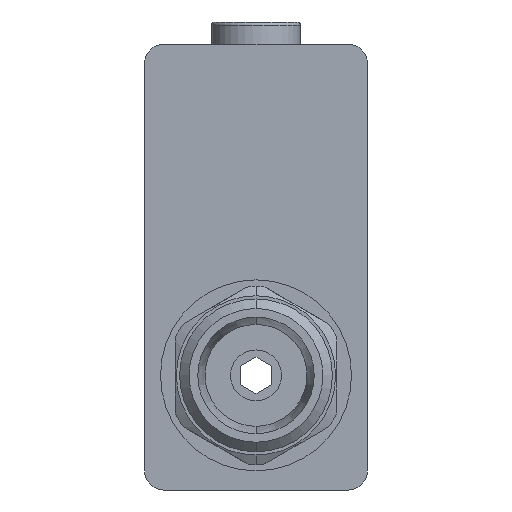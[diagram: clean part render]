
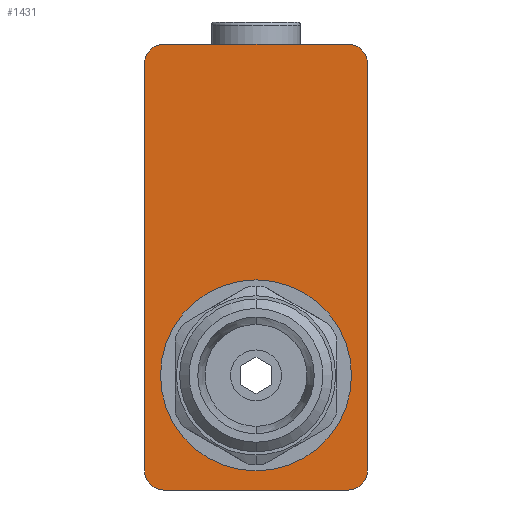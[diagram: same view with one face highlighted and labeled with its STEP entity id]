
A CAD part, left-side view. The second image highlights one B-rep face of the part: STEP entity #1431.
In plain terms, the highlighted planar face has unit normal (-1, 0, 0).
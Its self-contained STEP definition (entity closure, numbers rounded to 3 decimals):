
#75 = CARTESIAN_POINT ( 'NONE',  ( -46., -14.5, 32. ) ) ;
#172 = DIRECTION ( 'NONE',  ( 0., 1., 0. ) ) ;
#185 = DIRECTION ( 'NONE',  ( 0., 0., -1. ) ) ;
#300 = CARTESIAN_POINT ( 'NONE',  ( -46., -14.5, 35. ) ) ;
#548 = EDGE_CURVE ( 'NONE', #870, #1712, #1042, .T. ) ;
#607 = DIRECTION ( 'NONE',  ( 0., 0., -1. ) ) ;
#700 = CARTESIAN_POINT ( 'NONE',  ( -46., -17.5, 35. ) ) ;
#720 = AXIS2_PLACEMENT_3D ( 'NONE', #75, #1478, #2540 ) ;
#863 = DIRECTION ( 'NONE',  ( 0., 0., -1. ) ) ;
#870 = VERTEX_POINT ( 'NONE', #5318 ) ;
#907 = CARTESIAN_POINT ( 'NONE',  ( -46., -17.5, -32. ) ) ;
#1042 = CIRCLE ( 'NONE', #2550, 15. ) ;
#1055 = AXIS2_PLACEMENT_3D ( 'NONE', #1871, #3772, #1397 ) ;
#1154 = CIRCLE ( 'NONE', #5442, 3. ) ;
#1281 = CARTESIAN_POINT ( 'NONE',  ( -46., 17.5, 35. ) ) ;
#1336 = ORIENTED_EDGE ( 'NONE', *, *, #2870, .T. ) ;
#1382 = EDGE_CURVE ( 'NONE', #5129, #4523, #4793, .T. ) ;
#1397 = DIRECTION ( 'NONE',  ( 0., 0., -1. ) ) ;
#1431 = ADVANCED_FACE ( 'NONE', ( #5641, #3266 ), #6128, .F. ) ;
#1478 = DIRECTION ( 'NONE',  ( -1., 0., 0. ) ) ;
#1547 = DIRECTION ( 'NONE',  ( 1., 0., 0. ) ) ;
#1549 = EDGE_CURVE ( 'NONE', #5119, #3841, #3861, .T. ) ;
#1712 = VERTEX_POINT ( 'NONE', #5571 ) ;
#1723 = CIRCLE ( 'NONE', #5201, 15. ) ;
#1861 = VERTEX_POINT ( 'NONE', #2047 ) ;
#1871 = CARTESIAN_POINT ( 'NONE',  ( -46., 17.5, 35. ) ) ;
#1942 = EDGE_CURVE ( 'NONE', #1712, #870, #1723, .T. ) ;
#1949 = ORIENTED_EDGE ( 'NONE', *, *, #2501, .T. ) ;
#2047 = CARTESIAN_POINT ( 'NONE',  ( -46., 14.5, -35. ) ) ;
#2094 = ORIENTED_EDGE ( 'NONE', *, *, #3476, .F. ) ;
#2180 = ORIENTED_EDGE ( 'NONE', *, *, #2288, .T. ) ;
#2288 = EDGE_CURVE ( 'NONE', #4338, #4523, #3509, .T. ) ;
#2394 = ORIENTED_EDGE ( 'NONE', *, *, #1382, .F. ) ;
#2501 = EDGE_CURVE ( 'NONE', #4287, #1861, #3483, .T. ) ;
#2540 = DIRECTION ( 'NONE',  ( 0., 0., -1. ) ) ;
#2550 = AXIS2_PLACEMENT_3D ( 'NONE', #5354, #2992, #4881 ) ;
#2571 = CARTESIAN_POINT ( 'NONE',  ( -46., -14.5, -35. ) ) ;
#2573 = AXIS2_PLACEMENT_3D ( 'NONE', #2993, #3546, #607 ) ;
#2605 = EDGE_CURVE ( 'NONE', #1861, #5119, #3492, .T. ) ;
#2811 = DIRECTION ( 'NONE',  ( 0., -1., 0. ) ) ;
#2870 = EDGE_CURVE ( 'NONE', #3841, #4338, #4511, .T. ) ;
#2928 = CARTESIAN_POINT ( 'NONE',  ( -46., 0., -17. ) ) ;
#2992 = DIRECTION ( 'NONE',  ( 1., 0., 0. ) ) ;
#2993 = CARTESIAN_POINT ( 'NONE',  ( -46., -14.5, -32. ) ) ;
#3044 = VERTEX_POINT ( 'NONE', #3197 ) ;
#3197 = CARTESIAN_POINT ( 'NONE',  ( -46., 17.5, 32. ) ) ;
#3224 = EDGE_LOOP ( 'NONE', ( #2094, #1949, #4728, #5836, #1336, #2180, #2394, #3319 ) ) ;
#3266 = FACE_OUTER_BOUND ( 'NONE', #3224, .T. ) ;
#3319 = ORIENTED_EDGE ( 'NONE', *, *, #5418, .T. ) ;
#3330 = DIRECTION ( 'NONE',  ( -1., 0., 0. ) ) ;
#3387 = VECTOR ( 'NONE', #5886, 1000. ) ;
#3476 = EDGE_CURVE ( 'NONE', #4287, #3044, #5625, .T. ) ;
#3483 = CIRCLE ( 'NONE', #5672, 3. ) ;
#3492 = LINE ( 'NONE', #5393, #3387 ) ;
#3509 = CIRCLE ( 'NONE', #720, 3. ) ;
#3546 = DIRECTION ( 'NONE',  ( -1., 0., 0. ) ) ;
#3772 = DIRECTION ( 'NONE',  ( 1., 0., 0. ) ) ;
#3841 = VERTEX_POINT ( 'NONE', #907 ) ;
#3861 = CIRCLE ( 'NONE', #2573, 3. ) ;
#4287 = VERTEX_POINT ( 'NONE', #5675 ) ;
#4338 = VERTEX_POINT ( 'NONE', #5229 ) ;
#4367 = EDGE_LOOP ( 'NONE', ( #6012, #5553 ) ) ;
#4511 = LINE ( 'NONE', #700, #4685 ) ;
#4523 = VERTEX_POINT ( 'NONE', #300 ) ;
#4599 = VECTOR ( 'NONE', #5177, 1000. ) ;
#4685 = VECTOR ( 'NONE', #5936, 1000. ) ;
#4728 = ORIENTED_EDGE ( 'NONE', *, *, #2605, .T. ) ;
#4761 = CARTESIAN_POINT ( 'NONE',  ( -46., 17.5, 35. ) ) ;
#4793 = LINE ( 'NONE', #4761, #4861 ) ;
#4861 = VECTOR ( 'NONE', #2811, 1000. ) ;
#4881 = DIRECTION ( 'NONE',  ( 0., 1., 0. ) ) ;
#5119 = VERTEX_POINT ( 'NONE', #2571 ) ;
#5129 = VERTEX_POINT ( 'NONE', #5890 ) ;
#5141 = CARTESIAN_POINT ( 'NONE',  ( -46., 14.5, 32. ) ) ;
#5177 = DIRECTION ( 'NONE',  ( 0., 0., 1. ) ) ;
#5201 = AXIS2_PLACEMENT_3D ( 'NONE', #2928, #1547, #172 ) ;
#5229 = CARTESIAN_POINT ( 'NONE',  ( -46., -17.5, 32. ) ) ;
#5318 = CARTESIAN_POINT ( 'NONE',  ( -46., -15., -17. ) ) ;
#5354 = CARTESIAN_POINT ( 'NONE',  ( -46., 0., -17. ) ) ;
#5393 = CARTESIAN_POINT ( 'NONE',  ( -46., 17.5, -35. ) ) ;
#5418 = EDGE_CURVE ( 'NONE', #5129, #3044, #1154, .T. ) ;
#5442 = AXIS2_PLACEMENT_3D ( 'NONE', #5141, #3330, #863 ) ;
#5457 = DIRECTION ( 'NONE',  ( -1., 0., 0. ) ) ;
#5553 = ORIENTED_EDGE ( 'NONE', *, *, #548, .T. ) ;
#5571 = CARTESIAN_POINT ( 'NONE',  ( -46., 15., -17. ) ) ;
#5625 = LINE ( 'NONE', #1281, #4599 ) ;
#5641 = FACE_BOUND ( 'NONE', #4367, .T. ) ;
#5672 = AXIS2_PLACEMENT_3D ( 'NONE', #5856, #5457, #185 ) ;
#5675 = CARTESIAN_POINT ( 'NONE',  ( -46., 17.5, -32. ) ) ;
#5836 = ORIENTED_EDGE ( 'NONE', *, *, #1549, .T. ) ;
#5856 = CARTESIAN_POINT ( 'NONE',  ( -46., 14.5, -32. ) ) ;
#5886 = DIRECTION ( 'NONE',  ( 0., -1., 0. ) ) ;
#5890 = CARTESIAN_POINT ( 'NONE',  ( -46., 14.5, 35. ) ) ;
#5936 = DIRECTION ( 'NONE',  ( 0., 0., 1. ) ) ;
#6012 = ORIENTED_EDGE ( 'NONE', *, *, #1942, .T. ) ;
#6128 = PLANE ( 'NONE',  #1055 ) ;
